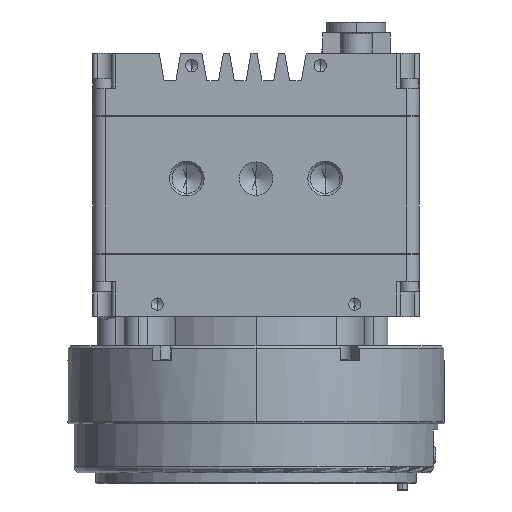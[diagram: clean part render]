
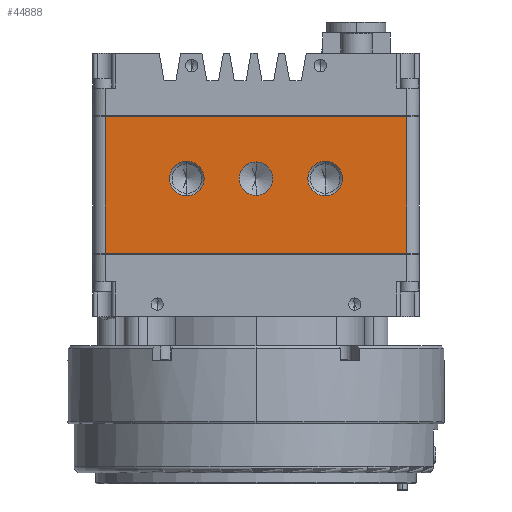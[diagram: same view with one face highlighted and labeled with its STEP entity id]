
A CAD part, front view. The second image highlights one B-rep face of the part: STEP entity #44888.
In plain terms, the highlighted planar face has unit normal (0, -1, 0).
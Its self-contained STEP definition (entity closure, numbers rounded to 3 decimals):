
#1260 = DIRECTION ( 'NONE',  ( 0., -1., 0. ) ) ;
#1986 = EDGE_LOOP ( 'NONE', ( #3486, #55126 ) ) ;
#3307 = VECTOR ( 'NONE', #54874, 1000. ) ;
#3486 = ORIENTED_EDGE ( 'NONE', *, *, #13845, .F. ) ;
#3580 = DIRECTION ( 'NONE',  ( -1., 0., 0. ) ) ;
#3780 = CARTESIAN_POINT ( 'NONE',  ( 30.48, -26.67, -0.127 ) ) ;
#4250 = CARTESIAN_POINT ( 'NONE',  ( 0., -26.67, -12.7 ) ) ;
#4538 = PLANE ( 'NONE',  #30850 ) ;
#5596 = ORIENTED_EDGE ( 'NONE', *, *, #20569, .F. ) ;
#9552 = EDGE_CURVE ( 'NONE', #31245, #29113, #35849, .T. ) ;
#9602 = DIRECTION ( 'NONE',  ( 0., 0., -1. ) ) ;
#10172 = CARTESIAN_POINT ( 'NONE',  ( -30.48, -26.67, -0.127 ) ) ;
#10299 = DIRECTION ( 'NONE',  ( 0., 0., -1. ) ) ;
#10393 = CARTESIAN_POINT ( 'NONE',  ( 0., -26.67, -16.078 ) ) ;
#10917 = EDGE_CURVE ( 'NONE', #29113, #29707, #45042, .T. ) ;
#11007 = CIRCLE ( 'NONE', #30951, 3.378 ) ;
#11035 = AXIS2_PLACEMENT_3D ( 'NONE', #39844, #54826, #10299 ) ;
#11369 = EDGE_CURVE ( 'NONE', #36546, #55343, #11007, .T. ) ;
#13161 = CARTESIAN_POINT ( 'NONE',  ( 0., -26.67, -9.322 ) ) ;
#13407 = CARTESIAN_POINT ( 'NONE',  ( -30.48, -26.67, -0.127 ) ) ;
#13431 = CIRCLE ( 'NONE', #57250, 3.5 ) ;
#13845 = EDGE_CURVE ( 'NONE', #55343, #36546, #41493, .T. ) ;
#14307 = DIRECTION ( 'NONE',  ( 0., 0., 1. ) ) ;
#15094 = CARTESIAN_POINT ( 'NONE',  ( 14., -26.67, -12.7 ) ) ;
#16590 = EDGE_LOOP ( 'NONE', ( #19890, #29982 ) ) ;
#17131 = VERTEX_POINT ( 'NONE', #22209 ) ;
#19686 = VECTOR ( 'NONE', #38190, 1000. ) ;
#19890 = ORIENTED_EDGE ( 'NONE', *, *, #54432, .F. ) ;
#20569 = EDGE_CURVE ( 'NONE', #45765, #54929, #13431, .T. ) ;
#20737 = DIRECTION ( 'NONE',  ( 0., -1., 0. ) ) ;
#21912 = ORIENTED_EDGE ( 'NONE', *, *, #58637, .F. ) ;
#22209 = CARTESIAN_POINT ( 'NONE',  ( 30.48, -26.67, -27.813 ) ) ;
#22458 = FACE_BOUND ( 'NONE', #16590, .T. ) ;
#22777 = ORIENTED_EDGE ( 'NONE', *, *, #10917, .T. ) ;
#23447 = EDGE_CURVE ( 'NONE', #17131, #31245, #50815, .T. ) ;
#24558 = DIRECTION ( 'NONE',  ( 0., -1., 0. ) ) ;
#25080 = CARTESIAN_POINT ( 'NONE',  ( -33.02, -26.67, 0. ) ) ;
#26515 = CARTESIAN_POINT ( 'NONE',  ( 30.48, -26.67, 0. ) ) ;
#28368 = CARTESIAN_POINT ( 'NONE',  ( -30.48, -26.67, -27.813 ) ) ;
#29113 = VERTEX_POINT ( 'NONE', #10172 ) ;
#29489 = DIRECTION ( 'NONE',  ( 0., 0., -1. ) ) ;
#29707 = VERTEX_POINT ( 'NONE', #50023 ) ;
#29982 = ORIENTED_EDGE ( 'NONE', *, *, #30247, .F. ) ;
#30247 = EDGE_CURVE ( 'NONE', #50999, #59439, #41009, .T. ) ;
#30499 = DIRECTION ( 'NONE',  ( 0., 0., -1. ) ) ;
#30510 = CARTESIAN_POINT ( 'NONE',  ( -14., -26.67, -9.2 ) ) ;
#30850 = AXIS2_PLACEMENT_3D ( 'NONE', #25080, #38860, #14307 ) ;
#30951 = AXIS2_PLACEMENT_3D ( 'NONE', #50108, #20737, #50516 ) ;
#31245 = VERTEX_POINT ( 'NONE', #3780 ) ;
#31680 = EDGE_LOOP ( 'NONE', ( #33295, #22777, #53023, #41625 ) ) ;
#33295 = ORIENTED_EDGE ( 'NONE', *, *, #9552, .T. ) ;
#34002 = FACE_BOUND ( 'NONE', #1986, .T. ) ;
#34581 = CARTESIAN_POINT ( 'NONE',  ( -14., -26.67, -16.2 ) ) ;
#35849 = LINE ( 'NONE', #13407, #19686 ) ;
#36546 = VERTEX_POINT ( 'NONE', #13161 ) ;
#37142 = CARTESIAN_POINT ( 'NONE',  ( 14., -26.67, -9.2 ) ) ;
#37432 = CIRCLE ( 'NONE', #58494, 3.5 ) ;
#38190 = DIRECTION ( 'NONE',  ( -1., 0., 0. ) ) ;
#38860 = DIRECTION ( 'NONE',  ( 0., 1., 0. ) ) ;
#39844 = CARTESIAN_POINT ( 'NONE',  ( 14., -26.67, -12.7 ) ) ;
#39993 = VECTOR ( 'NONE', #60919, 1000. ) ;
#41009 = CIRCLE ( 'NONE', #54812, 3.5 ) ;
#41393 = EDGE_LOOP ( 'NONE', ( #5596, #21912 ) ) ;
#41493 = CIRCLE ( 'NONE', #51809, 3.378 ) ;
#41625 = ORIENTED_EDGE ( 'NONE', *, *, #23447, .T. ) ;
#43822 = EDGE_CURVE ( 'NONE', #17131, #29707, #59728, .T. ) ;
#44888 = ADVANCED_FACE ( 'NONE', ( #22458, #60378, #34002, #56539 ), #4538, .F. ) ;
#45042 = LINE ( 'NONE', #49666, #3307 ) ;
#45765 = VERTEX_POINT ( 'NONE', #49636 ) ;
#46528 = VECTOR ( 'NONE', #3580, 1000. ) ;
#47484 = CIRCLE ( 'NONE', #11035, 3.5 ) ;
#48913 = CARTESIAN_POINT ( 'NONE',  ( -14., -26.67, -12.7 ) ) ;
#49351 = DIRECTION ( 'NONE',  ( 0., -1., 0. ) ) ;
#49636 = CARTESIAN_POINT ( 'NONE',  ( 14., -26.67, -16.2 ) ) ;
#49666 = CARTESIAN_POINT ( 'NONE',  ( -30.48, -26.67, 0. ) ) ;
#50023 = CARTESIAN_POINT ( 'NONE',  ( -30.48, -26.67, -27.813 ) ) ;
#50108 = CARTESIAN_POINT ( 'NONE',  ( 0., -26.67, -12.7 ) ) ;
#50516 = DIRECTION ( 'NONE',  ( 0., 0., -1. ) ) ;
#50815 = LINE ( 'NONE', #26515, #39993 ) ;
#50999 = VERTEX_POINT ( 'NONE', #30510 ) ;
#51809 = AXIS2_PLACEMENT_3D ( 'NONE', #4250, #24558, #29489 ) ;
#53023 = ORIENTED_EDGE ( 'NONE', *, *, #43822, .F. ) ;
#54432 = EDGE_CURVE ( 'NONE', #59439, #50999, #37432, .T. ) ;
#54776 = CARTESIAN_POINT ( 'NONE',  ( -14., -26.67, -12.7 ) ) ;
#54812 = AXIS2_PLACEMENT_3D ( 'NONE', #54776, #55222, #30499 ) ;
#54826 = DIRECTION ( 'NONE',  ( 0., -1., 0. ) ) ;
#54874 = DIRECTION ( 'NONE',  ( 0., 0., -1. ) ) ;
#54929 = VERTEX_POINT ( 'NONE', #37142 ) ;
#55126 = ORIENTED_EDGE ( 'NONE', *, *, #11369, .F. ) ;
#55222 = DIRECTION ( 'NONE',  ( 0., -1., 0. ) ) ;
#55343 = VERTEX_POINT ( 'NONE', #10393 ) ;
#56539 = FACE_OUTER_BOUND ( 'NONE', #31680, .T. ) ;
#57250 = AXIS2_PLACEMENT_3D ( 'NONE', #15094, #1260, #59813 ) ;
#58494 = AXIS2_PLACEMENT_3D ( 'NONE', #48913, #49351, #9602 ) ;
#58637 = EDGE_CURVE ( 'NONE', #54929, #45765, #47484, .T. ) ;
#59439 = VERTEX_POINT ( 'NONE', #34581 ) ;
#59728 = LINE ( 'NONE', #28368, #46528 ) ;
#59813 = DIRECTION ( 'NONE',  ( 0., 0., -1. ) ) ;
#60378 = FACE_BOUND ( 'NONE', #41393, .T. ) ;
#60919 = DIRECTION ( 'NONE',  ( 0., 0., 1. ) ) ;
